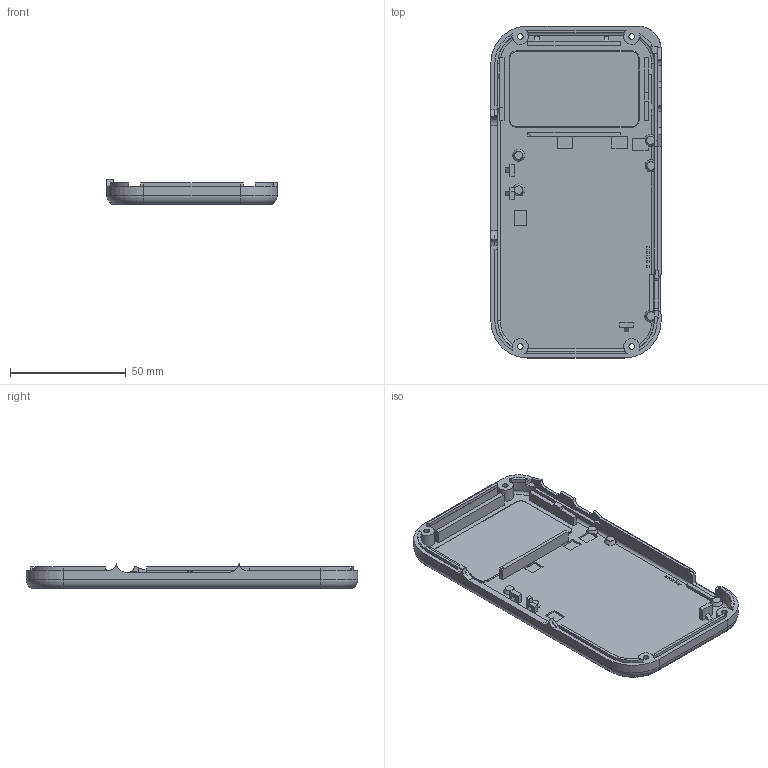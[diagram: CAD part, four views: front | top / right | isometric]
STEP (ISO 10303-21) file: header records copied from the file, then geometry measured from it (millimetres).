
FILE_DESCRIPTION(('Open CASCADE Model'),'2;1');
FILE_NAME('Open CASCADE Shape Model','2026-09-21T11:06:39',('Author'),( 'Open CASCADE'),'Open CASCADE STEP processor 7.7','Open CASCADE 7.7' ,'Unknown');
FILE_SCHEMA(('AUTOMOTIVE_DESIGN { 1 0 10303 214 1 1 1 1 }'));
Length unit declared in the file: millimetre
Products named in the file (1): Open CASCADE STEP translator 7.7 1
Bounding box: 73.5 x 143.25 x 10.99 mm (x, y, z)
Volume: 28922.9 mm3; surface area: 28448.2 mm2
Topology: 1 solids, 1 shells, 362 faces, 993 edges, 647 vertices
Faces by surface type: plane 241, cylinder 85, torus 21, cone 10, bspline 5
Full cylindrical faces by diameter (mm): 2.4 x4, 4.4 x4
Entity records: 26651 total; most frequent: CARTESIAN_POINT 7148, DIRECTION 3561, LINE 2211, VECTOR 2211, ORIENTED_EDGE 1986, PCURVE 1986, DEFINITIONAL_REPRESENTATION 1986, EDGE_CURVE 993
